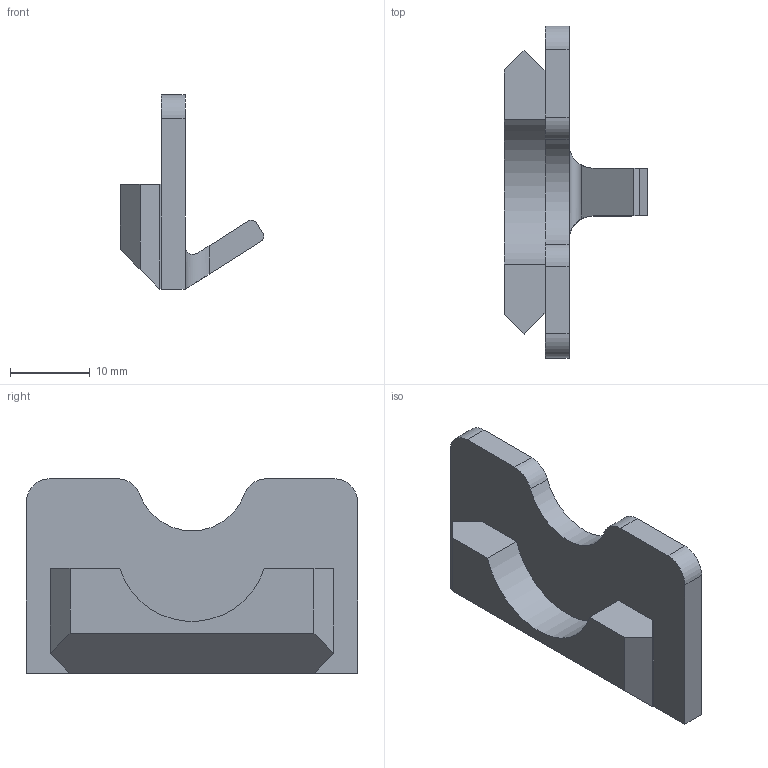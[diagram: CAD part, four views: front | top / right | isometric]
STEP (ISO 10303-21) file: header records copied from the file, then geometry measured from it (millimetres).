
FILE_DESCRIPTION(/* description */ ('','CAx-IF Rec.Pracs.---Representation and Presentation of Product Manufacturing Information (PMI)---4.0---2014-10-13'),/* implementation_level */ '2;1');
FILE_NAME(/* name */ 'Goews Single 1x Hanging Plate Blank - Small Hook v2.step',/* time_stamp */ '2025-01-06T13:51:11-05:00',/* author */ (''),/* organization */ (''),/* preprocessor_version */ 'ST-DEVELOPER v20',/* originating_system */ 'Autodesk Translation Framework v13.20.0.188',/* authorisation */ '');
FILE_SCHEMA (('AP242_MANAGED_MODEL_BASED_3D_ENGINEERING_MIM_LF { 1 0 10303 442 1 1 4 }'));
Length unit declared in the file: millimetre
Products named in the file (1): Goews Single 1x Hanging Plate Blank - Small Hook
Bounding box: 18.04 x 41.6 x 24.39 mm (x, y, z)
Volume: 4400.4 mm3; surface area: 2901.3 mm2
Topology: 1 solids, 1 shells, 34 faces, 89 edges, 58 vertices
Faces by surface type: plane 25, cylinder 9
Entity records: 1088 total; most frequent: CARTESIAN_POINT 204, ORIENTED_EDGE 178, DIRECTION 173, EDGE_CURVE 89, LINE 71, VECTOR 71, VERTEX_POINT 58, AXIS2_PLACEMENT_3D 51
